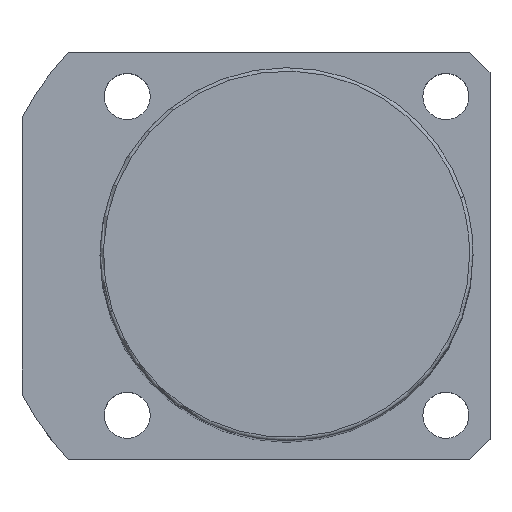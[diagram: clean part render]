
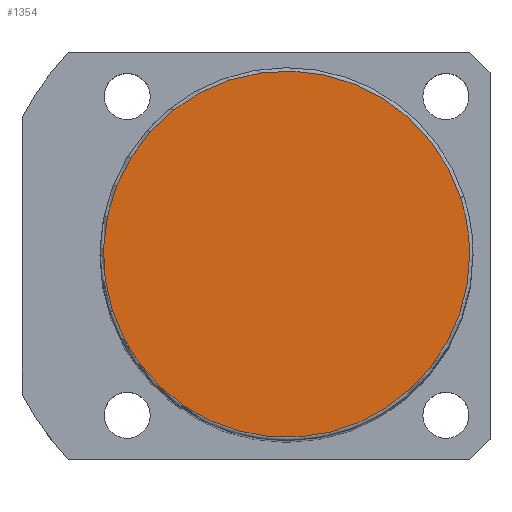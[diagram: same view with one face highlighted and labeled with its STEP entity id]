
A CAD part, top view. The second image highlights one B-rep face of the part: STEP entity #1354.
In plain terms, the highlighted planar face has unit normal (0, 0, 1).
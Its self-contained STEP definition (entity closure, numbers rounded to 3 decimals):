
#1287=CARTESIAN_POINT('',(25.679,8.343,151.0));
#1288=VERTEX_POINT('',#1287);
#1306=CARTESIAN_POINT('',(-25.679,-8.343,151.0));
#1307=VERTEX_POINT('',#1306);
#1315=CARTESIAN_POINT('',(0.0,0.0,151.0));
#1316=DIRECTION('',(0.0,0.0,1.0));
#1317=DIRECTION('',(1.0,0.0,0.0));
#1318=AXIS2_PLACEMENT_3D('',#1315,#1316,#1317);
#1319=CIRCLE('',#1318,27.0);
#1320=EDGE_CURVE('no 1848',#1288,#1307,#1319,.T.);
#1330=CARTESIAN_POINT('',(27.0,0.0,151.0));
#1331=VERTEX_POINT('',#1330);
#1332=CARTESIAN_POINT('',(0.0,0.0,151.0));
#1333=DIRECTION('',(0.0,0.0,1.0));
#1334=DIRECTION('',(1.0,0.0,0.0));
#1335=AXIS2_PLACEMENT_3D('',#1332,#1333,#1334);
#1336=CIRCLE('',#1335,27.0);
#1337=EDGE_CURVE('no 1857',#1331,#1288,#1336,.T.);
#1338=ORIENTED_EDGE('',*,*,#1337,.T.);
#1339=ORIENTED_EDGE('',*,*,#1320,.T.);
#1340=CARTESIAN_POINT('',(0.0,0.0,151.0));
#1341=DIRECTION('',(0.0,0.0,1.0));
#1342=DIRECTION('',(1.0,0.0,0.0));
#1343=AXIS2_PLACEMENT_3D('',#1340,#1341,#1342);
#1344=CIRCLE('',#1343,27.0);
#1345=EDGE_CURVE('no 1863',#1307,#1331,#1344,.T.);
#1346=ORIENTED_EDGE('',*,*,#1345,.T.);
#1347=EDGE_LOOP('',(#1338,#1339,#1346));
#1348=FACE_OUTER_BOUND('',#1347,.T.);
#1349=CARTESIAN_POINT('',(0.0,0.0,151.0));
#1350=DIRECTION('',(0.0,0.0,1.0));
#1351=DIRECTION('',(1.0,0.0,0.0));
#1352=AXIS2_PLACEMENT_3D('',#1349,#1350,#1351);
#1353=PLANE('',#1352);
#1354=ADVANCED_FACE('no 1850',(#1348),#1353,.T.);
